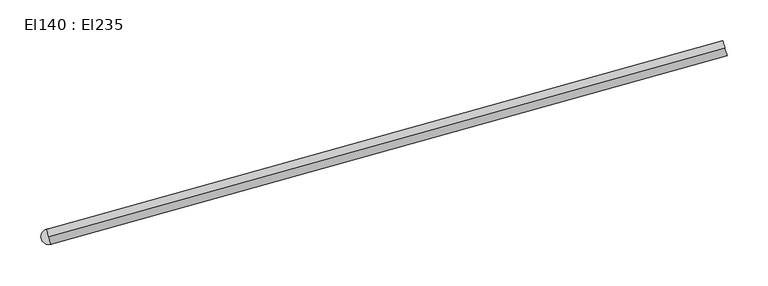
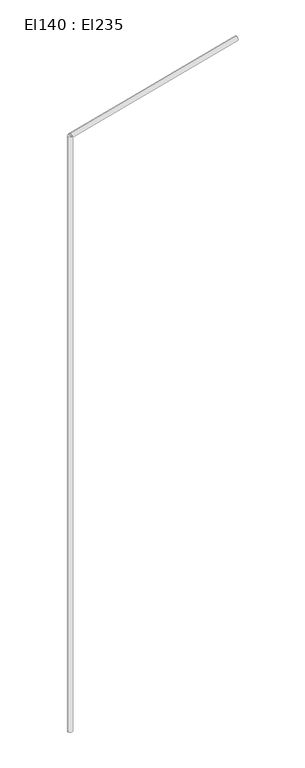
"""IFC4 building model written with IfcOpenShell, lengths in millimetres: cable carrier segment geometry, El140 : El235."""

from ifc_helpers import new_model, si_unit, point, frame, frame_2d, origin, place, context, project, spatial, circle_curve, trimmed, segment, composite_curve, outline, extrude, source, transform, mapped, element, save


def el140_el235_33b0d0c4(model_context):
    return source(origin(), model_context, "Body", "SweptSolid", [
        extrude(outline(composite_curve([segment(trimmed(circle_curve(frame_2d((7564.4756511, 16641.3571745)), 9.5), [point((7554.9756511, 16641.3571745))], [point((7573.9756511, 16641.3571745))], False, "CARTESIAN"), True, "CONTINUOUS"), segment(trimmed(circle_curve(frame_2d((7564.4756511, 16641.3571745)), 9.5), [point((7573.9756511, 16641.3571745))], [point((7554.9756511, 16641.3571745))], False, "CARTESIAN"), True, "CONTINUOUS")], self_intersect=False)), frame((0.0, 0.0, 1830.0), z_axis=(0.0, 0.0, 1.0), x_axis=(1.0, 0.0, 0.0)), (0.0, 0.0, 1.0), 2620.0),
        extrude(outline(composite_curve([segment(trimmed(circle_curve(frame_2d((0.0, -9.5)), 9.5), [point((0.0, -19.0))], [point((0.0, 0.0))], False, "CARTESIAN"), True, "CONTINUOUS"), segment(trimmed(circle_curve(frame_2d((0.0, -9.5)), 9.5), [point((0.0, 0.0))], [point((0.0, -19.0))], False, "CARTESIAN"), True, "CONTINUOUS")], self_intersect=False)), frame((7564.4764542, 16641.3576446, 4459.5), z_axis=(0.9632191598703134, 0.26871704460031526, 0.0), x_axis=(-0.26871704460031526, 0.9632191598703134, 0.0)), (0.0, 0.0, 1.0), 856.881),
    ])


if __name__ == "__main__":
    model = new_model("IFC4")
    model_context = context("Model", 3, world=origin())
    ifc_project = project(units=[si_unit("LENGTHUNIT", "METRE", prefix="MILLI")], contexts=[model_context])
    site = spatial("IfcSite", under=ifc_project)
    building = spatial("IfcBuilding", under=site)
    placement = place(None, origin())
    el140_el235_shape = el140_el235_33b0d0c4(model_context)
    element("IfcCableCarrierSegment", 1, ObjectType="El140 : El235", at=placement, inside=building, context=model_context, shape_type="MappedRepresentation", body=[
        mapped(el140_el235_shape, transform((0.0, 0.0, 0.0), x_axis=(1.0, 0.0, 0.0), y_axis=(0.0, 1.0, 0.0), z_axis=(0.0, 0.0, 1.0))),
    ])
    save(model, "model.ifc")
